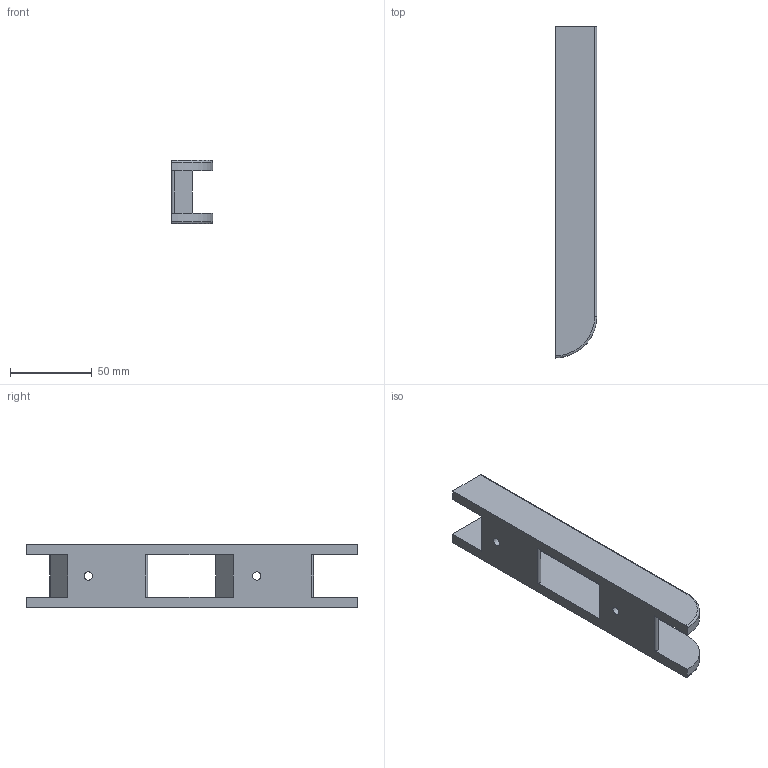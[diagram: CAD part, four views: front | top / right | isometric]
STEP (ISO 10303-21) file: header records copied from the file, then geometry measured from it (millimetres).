
FILE_DESCRIPTION(/* description */ ('STEP AP242','CAx-IF Rec.Pracs.---Representation and Presentation of Product Manufacturing Information (PMI)---4.0---2014-10-13','CAx-IF Rec.Pracs.---3D Tessellated Geometry---0.4---2014-09-14','2;1'),/* implementation_level */ '2;1');
FILE_NAME(/* name */ '677e14c4248f3576865292e3',/* time_stamp */ '2025-01-08T06:01:40Z',/* author */ (''),/* organization */ (''),/* preprocessor_version */ 'ST-DEVELOPER v20',/* originating_system */ 'ONSHAPE BY PTC INC, 1.191',/* authorisation */ ' ');
FILE_SCHEMA (('AP242_MANAGED_MODEL_BASED_3D_ENGINEERING_MIM_LF { 1 0 10303 442 1 1 4 }'));
Length unit declared in the file: metre
Products named in the file (1): Wall Bracket-8
Bounding box: 25.4 x 203.2 x 38.74 mm (x, y, z)
Volume: 95701.6 mm3; surface area: 30235.7 mm2
Topology: 1 solids, 1 shells, 33 faces, 87 edges, 57 vertices
Faces by surface type: plane 17, cylinder 12, torus 2, cone 2
Full cylindrical faces by diameter (mm): 5.08 x2, 12.7 x2
Entity records: 1022 total; most frequent: DIRECTION 178, CARTESIAN_POINT 170, ORIENTED_EDGE 160, EDGE_CURVE 80, AXIS2_PLACEMENT_3D 64, VERTEX_POINT 56, LINE 50, VECTOR 50
